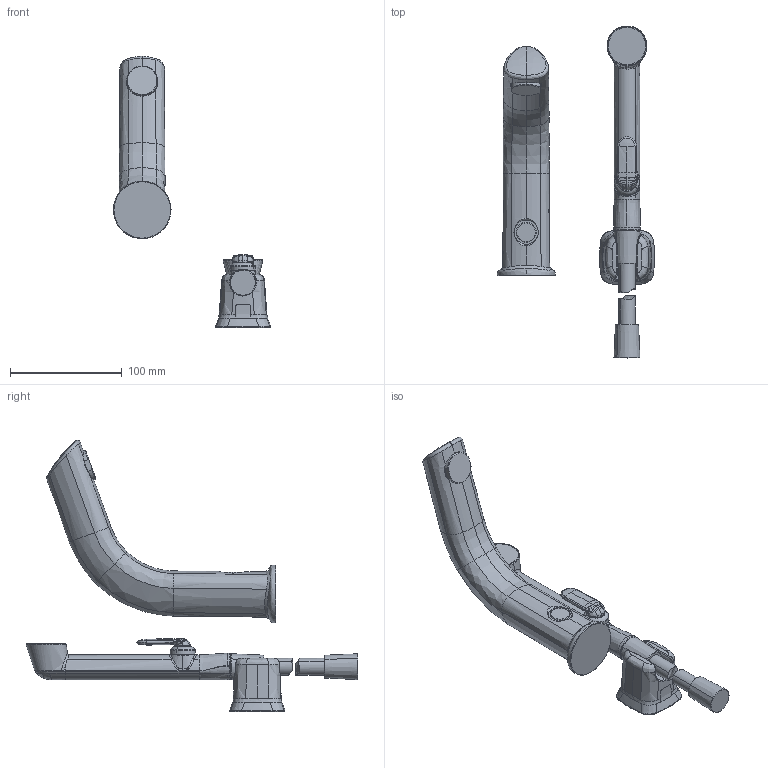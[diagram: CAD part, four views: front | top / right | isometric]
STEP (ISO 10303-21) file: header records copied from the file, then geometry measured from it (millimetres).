
FILE_DESCRIPTION (( 'STEP AP203' ), '1' );
FILE_NAME ('6104Q(2023).STEP', '2023-10-23T07:33:45', ( '' ), ( '' ), 'SwSTEP 2.0', 'SolidWorks 2016', '' );
FILE_SCHEMA (( 'CONFIG_CONTROL_DESIGN' ));
Length unit declared in the file: millimetre
Products named in the file (1): 6104Q(2023)
Bounding box: 140.54 x 296.68 x 242.43 mm (x, y, z)
Volume: 525968.1 mm3; surface area: 77690.9 mm2
Topology: 9 solids, 9 shells, 337 faces, 811 edges, 494 vertices
Faces by surface type: bspline 252, cone 33, plane 22, cylinder 18, torus 12
Entity records: 72782 total; most frequent: CARTESIAN_POINT 67069, ORIENTED_EDGE 1618, EDGE_CURVE 809, DIRECTION 576, VERTEX_POINT 494, B_SPLINE_CURVE_WITH_KNOTS 395, EDGE_LOOP 341, ADVANCED_FACE 337
